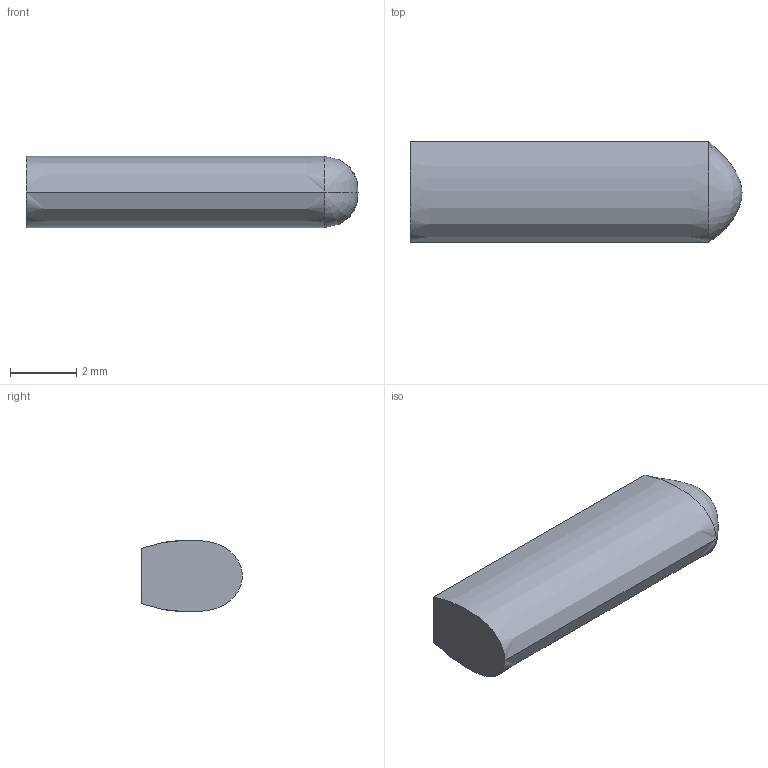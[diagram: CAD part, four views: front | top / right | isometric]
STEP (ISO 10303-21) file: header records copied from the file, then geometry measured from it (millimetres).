
FILE_DESCRIPTION((''),'1');
FILE_NAME('ELEK-ST10-10E','2001-03-29T',('rgoetz'),(''),'PRO/ENGINEER BY PARAMETRIC TECHNOLOGY CORPORATION, 2000350','PRO/ENGINEER BY PARAMETRIC TECHNOLOGY CORPORATION, 2000350','');
FILE_SCHEMA(('CONFIG_CONTROL_DESIGN'));
Length unit declared in the file: millimetre
Products named in the file (1): ELEK-ST10-10E
Bounding box: 10 x 3.03 x 2.16 mm (x, y, z)
Volume: 54.3 mm3; surface area: 94.6 mm2
Topology: 1 solids, 1 shells, 6 faces, 13 edges, 7 vertices
Faces by surface type: plane 2, extrusion 2, bspline 2
Entity records: 496 total; most frequent: CARTESIAN_POINT 355, ORIENTED_EDGE 22, EDGE_CURVE 11, DIRECTION 10, B_SPLINE_CURVE_WITH_KNOTS 9, VERTEX_POINT 7, VECTOR 6, EDGE_LOOP 6
